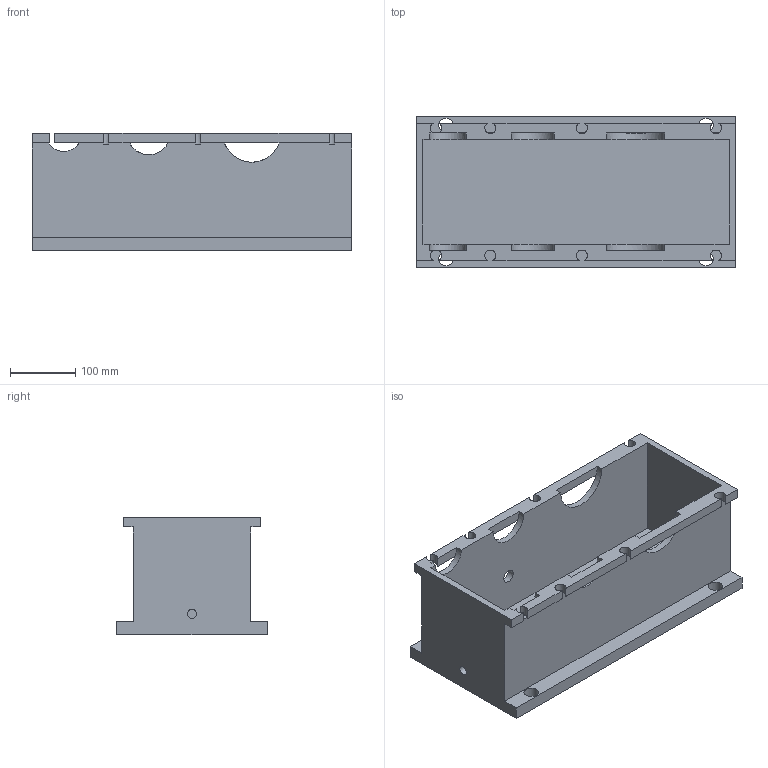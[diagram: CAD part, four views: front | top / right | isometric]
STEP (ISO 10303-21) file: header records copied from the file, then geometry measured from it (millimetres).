
FILE_DESCRIPTION(('Open CASCADE Model'),'2;1');
FILE_NAME('Open CASCADE Shape Model','2026-09-15T22:57:39',('Author'),( 'Open CASCADE'),'Open CASCADE STEP processor 7.9','build123d', 'Unknown');
FILE_SCHEMA(('AUTOMOTIVE_DESIGN { 1 0 10303 214 1 1 1 1 }'));
Length unit declared in the file: millimetre
Products named in the file (1): COMPOUND
Bounding box: 488 x 230 x 180 mm (x, y, z)
Volume: 4355362.5 mm3; surface area: 691670.4 mm2
Topology: 1 solids, 1 shells, 72 faces, 222 edges, 144 vertices
Faces by surface type: plane 50, cylinder 22
Full cylindrical faces by diameter (mm): 14 x1, 20 x1, 22 x4
Entity records: 5319 total; most frequent: CARTESIAN_POINT 1005, DIRECTION 773, ORIENTED_EDGE 444, PCURVE 444, DEFINITIONAL_REPRESENTATION 444, LINE 426, VECTOR 426, EDGE_CURVE 222
